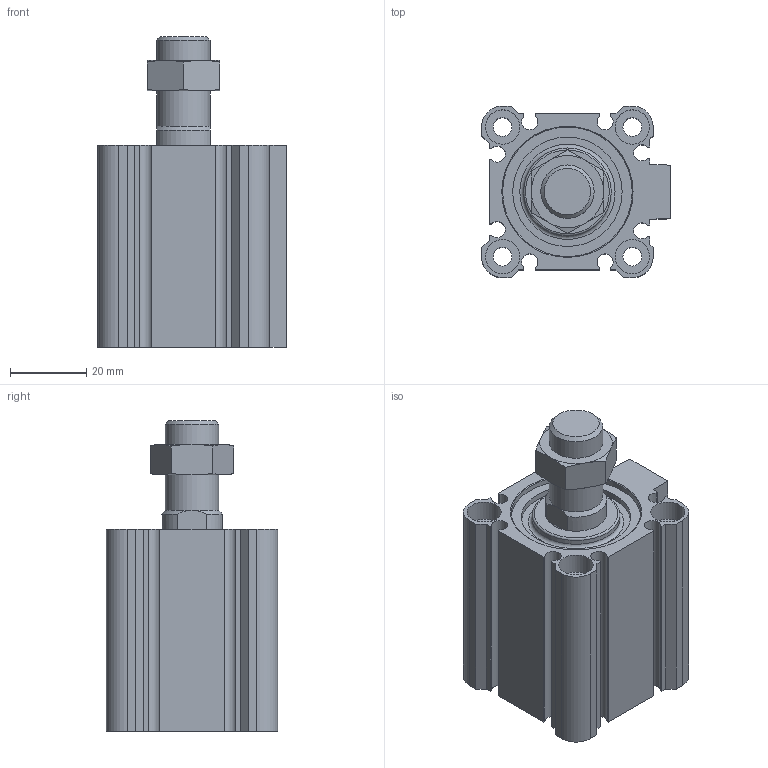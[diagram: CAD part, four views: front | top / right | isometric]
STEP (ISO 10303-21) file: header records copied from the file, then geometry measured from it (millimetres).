
FILE_DESCRIPTION( ( 'STEP AP214' ), '1' );
FILE_NAME( 'C:/Users/emc02044/Desktop/SQN SQN big size/SQN32X20-S-M.stp', '2026-07-29T01:43:22', ( 'License CC BY-ND 4.0' ), ( 'CADENAS' ), ' ', 'PARTsolutions', ' ' );
FILE_SCHEMA( ( 'AUTOMOTIVE_DESIGN { 1 0 10303 214 1 1 1 1 }' ) );
Length unit declared in the file: millimetre
Products named in the file (3): SQN32X20-S-M; _SQ32X20-S(0) ()_body; _SQ32X20-S-M(rod-0)
Assembly tree (2 placements, depth 2):
  SQN32X20-S-M
    _SQ32X20-S(0) ()_body
    _SQ32X20-S-M(rod-0)
Bounding box: 49.5 x 45 x 81.5 mm (x, y, z)
Volume: 77210.5 mm3; surface area: 34157.7 mm2
Topology: 2 solids, 2 shells, 157 faces, 355 edges, 229 vertices
Faces by surface type: plane 89, cylinder 44, cone 22, torus 2
Full cylindrical faces by diameter (mm): 4.917 x8, 5.5 x4, 8.566 x2, 9 x8, 14 x2, 16 x2, 23 x1, 28.7 x1, 32 x3, 34 x1
Entity records: 5560 total; most frequent: CARTESIAN_POINT 844, DIRECTION 716, ORIENTED_EDGE 620, EDGE_CURVE 310, AXIS2_PLACEMENT_3D 274, EDGE_LOOP 234, VERTEX_POINT 226, FACE_OUTER_BOUND 191
